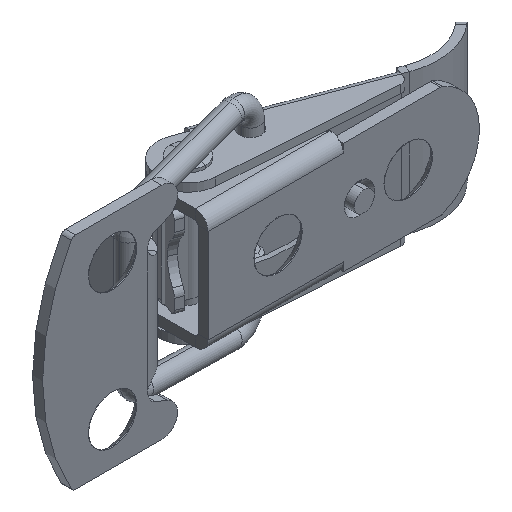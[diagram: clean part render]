
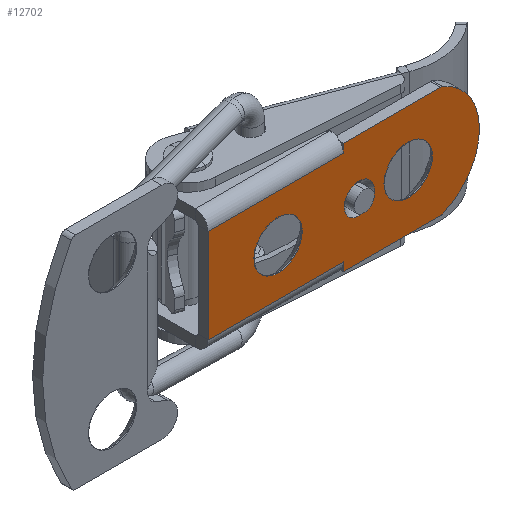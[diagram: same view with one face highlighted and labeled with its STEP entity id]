
A CAD part, isometric view. The second image highlights one B-rep face of the part: STEP entity #12702.
In plain terms, the highlighted planar face has unit normal (0, -1, 0).
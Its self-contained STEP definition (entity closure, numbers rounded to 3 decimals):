
#1 = EDGE_CURVE ( 'NONE', #14588, #3823, #4630, .T. ) ;
#200 = CARTESIAN_POINT ( 'NONE',  ( 13.5, 0., 6. ) ) ;
#309 = DIRECTION ( 'NONE',  ( 0., 0., -1. ) ) ;
#574 = AXIS2_PLACEMENT_3D ( 'NONE', #615, #10438, #2051 ) ;
#615 = CARTESIAN_POINT ( 'NONE',  ( 7., 0., 0. ) ) ;
#623 = DIRECTION ( 'NONE',  ( 0., 0., -1. ) ) ;
#629 = CARTESIAN_POINT ( 'NONE',  ( 15.1, 0., 0. ) ) ;
#679 = AXIS2_PLACEMENT_3D ( 'NONE', #16963, #8723, #309 ) ;
#733 = EDGE_CURVE ( 'NONE', #16291, #7470, #985, .T. ) ;
#977 = CARTESIAN_POINT ( 'NONE',  ( 13.5, 0., -5.55 ) ) ;
#985 = CIRCLE ( 'NONE', #18032, 2.4 ) ;
#1119 = CARTESIAN_POINT ( 'NONE',  ( 20., 0., 0. ) ) ;
#1120 = AXIS2_PLACEMENT_3D ( 'NONE', #15712, #7468, #17108 ) ;
#1171 = EDGE_CURVE ( 'NONE', #14588, #16649, #10030, .T. ) ;
#1175 = CARTESIAN_POINT ( 'NONE',  ( 23.216, 0., -5.55 ) ) ;
#1190 = ORIENTED_EDGE ( 'NONE', *, *, #16629, .F. ) ;
#1296 = AXIS2_PLACEMENT_3D ( 'NONE', #5386, #15031, #6784 ) ;
#1552 = VERTEX_POINT ( 'NONE', #11723 ) ;
#2051 = DIRECTION ( 'NONE',  ( 0., 0., -1. ) ) ;
#2064 = DIRECTION ( 'NONE',  ( 0., 0., -1. ) ) ;
#2193 = VECTOR ( 'NONE', #13035, 1000. ) ;
#2233 = FACE_BOUND ( 'NONE', #2475, .T. ) ;
#2475 = EDGE_LOOP ( 'NONE', ( #11005, #1190 ) ) ;
#2563 = DIRECTION ( 'NONE',  ( 0., 0., -1. ) ) ;
#2757 = EDGE_LOOP ( 'NONE', ( #11079, #13711 ) ) ;
#3060 = CARTESIAN_POINT ( 'NONE',  ( 15.1, 0., 0. ) ) ;
#3075 = VECTOR ( 'NONE', #13258, 1000. ) ;
#3104 = EDGE_CURVE ( 'NONE', #9507, #16649, #3973, .T. ) ;
#3125 = VERTEX_POINT ( 'NONE', #10519 ) ;
#3354 = EDGE_CURVE ( 'NONE', #9507, #3125, #12990, .T. ) ;
#3498 = VERTEX_POINT ( 'NONE', #15438 ) ;
#3782 = ORIENTED_EDGE ( 'NONE', *, *, #3354, .T. ) ;
#3823 = VERTEX_POINT ( 'NONE', #16057 ) ;
#3973 = LINE ( 'NONE', #14578, #3075 ) ;
#3991 = ORIENTED_EDGE ( 'NONE', *, *, #13398, .F. ) ;
#4435 = VECTOR ( 'NONE', #8701, 1000. ) ;
#4486 = DIRECTION ( 'NONE',  ( 0., 0., -1. ) ) ;
#4521 = DIRECTION ( 'NONE',  ( -1., 0., 0. ) ) ;
#4630 = LINE ( 'NONE', #7310, #4435 ) ;
#4651 = VECTOR ( 'NONE', #4521, 1000. ) ;
#4752 = CARTESIAN_POINT ( 'NONE',  ( 0., 0., 6. ) ) ;
#5262 = CARTESIAN_POINT ( 'NONE',  ( 20., 0., 2.4 ) ) ;
#5386 = CARTESIAN_POINT ( 'NONE',  ( 23.216, 0., -5.05 ) ) ;
#5491 = DIRECTION ( 'NONE',  ( 0., -1., 0. ) ) ;
#5927 = LINE ( 'NONE', #4752, #2193 ) ;
#6097 = ORIENTED_EDGE ( 'NONE', *, *, #15456, .T. ) ;
#6251 = VERTEX_POINT ( 'NONE', #9773 ) ;
#6254 = CARTESIAN_POINT ( 'NONE',  ( 7., 0., 0. ) ) ;
#6452 = VERTEX_POINT ( 'NONE', #10387 ) ;
#6629 = CIRCLE ( 'NONE', #14682, 0.5 ) ;
#6784 = DIRECTION ( 'NONE',  ( 0., 0., -1. ) ) ;
#6825 = CIRCLE ( 'NONE', #8920, 2.4 ) ;
#7077 = ORIENTED_EDGE ( 'NONE', *, *, #1, .F. ) ;
#7219 = DIRECTION ( 'NONE',  ( 0., -1., 0. ) ) ;
#7310 = CARTESIAN_POINT ( 'NONE',  ( 13.5, 0., -4.7 ) ) ;
#7468 = DIRECTION ( 'NONE',  ( 0., -1., 0. ) ) ;
#7470 = VERTEX_POINT ( 'NONE', #15586 ) ;
#7513 = AXIS2_PLACEMENT_3D ( 'NONE', #200, #7219, #11406 ) ;
#7664 = DIRECTION ( 'NONE',  ( 0., 0., -1. ) ) ;
#7947 = CIRCLE ( 'NONE', #679, 5.96 ) ;
#8091 = AXIS2_PLACEMENT_3D ( 'NONE', #3060, #12770, #4486 ) ;
#8556 = CIRCLE ( 'NONE', #574, 2.4 ) ;
#8572 = ORIENTED_EDGE ( 'NONE', *, *, #16613, .T. ) ;
#8701 = DIRECTION ( 'NONE',  ( -1., 0., 0. ) ) ;
#8723 = DIRECTION ( 'NONE',  ( 0., -1., 0. ) ) ;
#8920 = AXIS2_PLACEMENT_3D ( 'NONE', #6254, #15901, #7664 ) ;
#9023 = LINE ( 'NONE', #17150, #15897 ) ;
#9233 = ORIENTED_EDGE ( 'NONE', *, *, #16156, .T. ) ;
#9507 = VERTEX_POINT ( 'NONE', #1175 ) ;
#9508 = VERTEX_POINT ( 'NONE', #9598 ) ;
#9598 = CARTESIAN_POINT ( 'NONE',  ( 13.5, 0., 5.55 ) ) ;
#9682 = FACE_BOUND ( 'NONE', #2757, .T. ) ;
#9773 = CARTESIAN_POINT ( 'NONE',  ( 13.5, 0., 4.7 ) ) ;
#10030 = LINE ( 'NONE', #14510, #15100 ) ;
#10380 = EDGE_LOOP ( 'NONE', ( #13575, #6097, #9233, #8572, #15333, #12486, #7077, #11717, #12466, #3782 ) ) ;
#10387 = CARTESIAN_POINT ( 'NONE',  ( 23.216, 0., 5.55 ) ) ;
#10438 = DIRECTION ( 'NONE',  ( 0., -1., 0. ) ) ;
#10452 = DIRECTION ( 'NONE',  ( 0., 1., 0. ) ) ;
#10516 = DIRECTION ( 'NONE',  ( -1., 0., 0. ) ) ;
#10519 = CARTESIAN_POINT ( 'NONE',  ( 23.406, 0., -5.512 ) ) ;
#10660 = EDGE_LOOP ( 'NONE', ( #3991, #17712 ) ) ;
#10782 = AXIS2_PLACEMENT_3D ( 'NONE', #629, #10452, #2064 ) ;
#10926 = DIRECTION ( 'NONE',  ( 0., -1., 0. ) ) ;
#11005 = ORIENTED_EDGE ( 'NONE', *, *, #14555, .F. ) ;
#11079 = ORIENTED_EDGE ( 'NONE', *, *, #14557, .T. ) ;
#11406 = DIRECTION ( 'NONE',  ( 0., 0., -1. ) ) ;
#11699 = DIRECTION ( 'NONE',  ( 0., 0., -1. ) ) ;
#11717 = ORIENTED_EDGE ( 'NONE', *, *, #1171, .T. ) ;
#11723 = CARTESIAN_POINT ( 'NONE',  ( 7., 0., 2.4 ) ) ;
#11835 = CARTESIAN_POINT ( 'NONE',  ( 27.1, 0., 5.55 ) ) ;
#12064 = CARTESIAN_POINT ( 'NONE',  ( 0., 0., 4.7 ) ) ;
#12455 = LINE ( 'NONE', #11835, #16108 ) ;
#12466 = ORIENTED_EDGE ( 'NONE', *, *, #3104, .F. ) ;
#12486 = ORIENTED_EDGE ( 'NONE', *, *, #17560, .F. ) ;
#12629 = CARTESIAN_POINT ( 'NONE',  ( 23.406, 0., 5.512 ) ) ;
#12702 = ADVANCED_FACE ( 'NONE', ( #9682, #16528, #2233, #12900 ), #16859, .T. ) ;
#12770 = DIRECTION ( 'NONE',  ( 0., 1., 0. ) ) ;
#12900 = FACE_OUTER_BOUND ( 'NONE', #10380, .T. ) ;
#12955 = CARTESIAN_POINT ( 'NONE',  ( 15.1, 0., -1.5 ) ) ;
#12990 = CIRCLE ( 'NONE', #1296, 0.5 ) ;
#13035 = DIRECTION ( 'NONE',  ( 0., 0., 1. ) ) ;
#13192 = CARTESIAN_POINT ( 'NONE',  ( 13.5, 0., -4.7 ) ) ;
#13258 = DIRECTION ( 'NONE',  ( -1., 0., 0. ) ) ;
#13291 = EDGE_CURVE ( 'NONE', #3498, #13446, #14610, .T. ) ;
#13398 = EDGE_CURVE ( 'NONE', #7470, #16291, #13732, .T. ) ;
#13446 = VERTEX_POINT ( 'NONE', #12955 ) ;
#13575 = ORIENTED_EDGE ( 'NONE', *, *, #15222, .T. ) ;
#13711 = ORIENTED_EDGE ( 'NONE', *, *, #13291, .T. ) ;
#13732 = CIRCLE ( 'NONE', #1120, 2.4 ) ;
#13767 = CARTESIAN_POINT ( 'NONE',  ( 23.216, 0., 5.05 ) ) ;
#14163 = CIRCLE ( 'NONE', #10782, 1.5 ) ;
#14172 = CARTESIAN_POINT ( 'NONE',  ( 13.5, 0., 4.7 ) ) ;
#14510 = CARTESIAN_POINT ( 'NONE',  ( 13.5, 0., 5.55 ) ) ;
#14555 = EDGE_CURVE ( 'NONE', #15891, #1552, #6825, .T. ) ;
#14557 = EDGE_CURVE ( 'NONE', #13446, #3498, #14163, .T. ) ;
#14578 = CARTESIAN_POINT ( 'NONE',  ( 27.1, 0., -5.55 ) ) ;
#14588 = VERTEX_POINT ( 'NONE', #13192 ) ;
#14610 = CIRCLE ( 'NONE', #8091, 1.5 ) ;
#14682 = AXIS2_PLACEMENT_3D ( 'NONE', #13767, #5491, #15146 ) ;
#14934 = VERTEX_POINT ( 'NONE', #12629 ) ;
#15031 = DIRECTION ( 'NONE',  ( 0., -1., 0. ) ) ;
#15066 = VERTEX_POINT ( 'NONE', #12064 ) ;
#15100 = VECTOR ( 'NONE', #623, 1000. ) ;
#15146 = DIRECTION ( 'NONE',  ( 0., 0., -1. ) ) ;
#15222 = EDGE_CURVE ( 'NONE', #3125, #14934, #7947, .T. ) ;
#15333 = ORIENTED_EDGE ( 'NONE', *, *, #16971, .T. ) ;
#15438 = CARTESIAN_POINT ( 'NONE',  ( 15.1, 0., 1.5 ) ) ;
#15456 = EDGE_CURVE ( 'NONE', #14934, #6452, #6629, .T. ) ;
#15586 = CARTESIAN_POINT ( 'NONE',  ( 20., 0., -2.4 ) ) ;
#15712 = CARTESIAN_POINT ( 'NONE',  ( 20., 0., 0. ) ) ;
#15891 = VERTEX_POINT ( 'NONE', #17725 ) ;
#15897 = VECTOR ( 'NONE', #11699, 1000. ) ;
#15901 = DIRECTION ( 'NONE',  ( 0., -1., 0. ) ) ;
#16057 = CARTESIAN_POINT ( 'NONE',  ( 0., 0., -4.7 ) ) ;
#16108 = VECTOR ( 'NONE', #10516, 1000. ) ;
#16156 = EDGE_CURVE ( 'NONE', #6452, #9508, #12455, .T. ) ;
#16291 = VERTEX_POINT ( 'NONE', #5262 ) ;
#16503 = LINE ( 'NONE', #14172, #4651 ) ;
#16528 = FACE_BOUND ( 'NONE', #10660, .T. ) ;
#16613 = EDGE_CURVE ( 'NONE', #9508, #6251, #9023, .T. ) ;
#16629 = EDGE_CURVE ( 'NONE', #1552, #15891, #8556, .T. ) ;
#16649 = VERTEX_POINT ( 'NONE', #977 ) ;
#16859 = PLANE ( 'NONE',  #7513 ) ;
#16963 = CARTESIAN_POINT ( 'NONE',  ( 21.14, 0., 0. ) ) ;
#16971 = EDGE_CURVE ( 'NONE', #6251, #15066, #16503, .T. ) ;
#17108 = DIRECTION ( 'NONE',  ( 0., 0., -1. ) ) ;
#17150 = CARTESIAN_POINT ( 'NONE',  ( 13.5, 0., 5.55 ) ) ;
#17560 = EDGE_CURVE ( 'NONE', #3823, #15066, #5927, .T. ) ;
#17712 = ORIENTED_EDGE ( 'NONE', *, *, #733, .F. ) ;
#17725 = CARTESIAN_POINT ( 'NONE',  ( 7., 0., -2.4 ) ) ;
#18032 = AXIS2_PLACEMENT_3D ( 'NONE', #1119, #10926, #2563 ) ;
